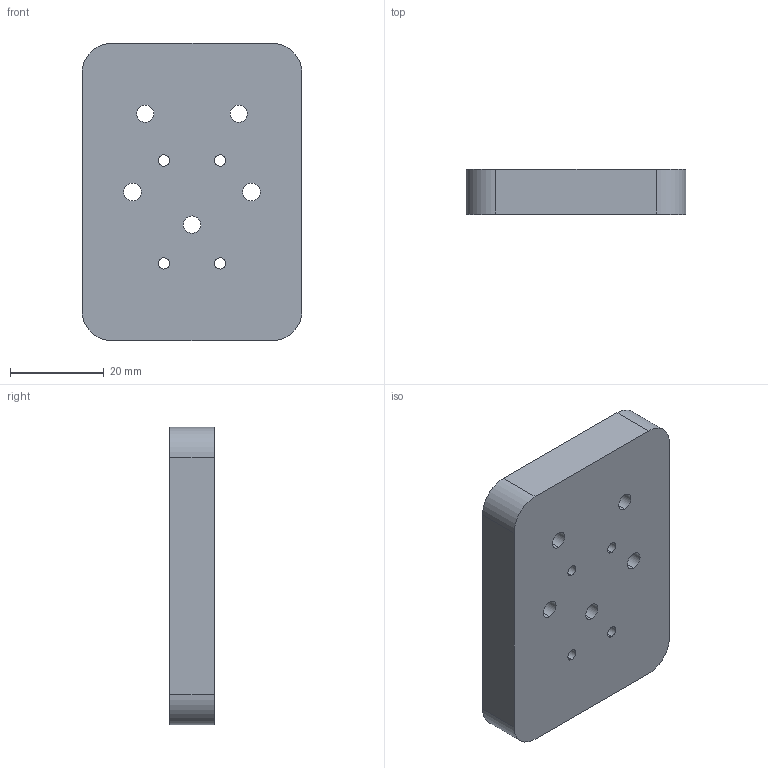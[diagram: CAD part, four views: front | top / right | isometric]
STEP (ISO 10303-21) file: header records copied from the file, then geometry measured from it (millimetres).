
FILE_DESCRIPTION (( 'STEP AP203' ), '1' );
FILE_NAME ('AFSB-535XS-B-ACA2500.STEP', '2018-08-16T13:03:03', ( 'admin' ), ( '' ), 'SwSTEP 2.0', 'SolidWorks 2018', '' );
FILE_SCHEMA (( 'CONFIG_CONTROL_DESIGN' ));
Length unit declared in the file: inch
Products named in the file (1): AFSB-535XS-B-ACA2500
Bounding box: 46.99 x 9.53 x 63.5 mm (x, y, z)
Volume: 26979.9 mm3; surface area: 8784.4 mm2
Topology: 1 solids, 1 shells, 49 faces, 120 edges, 80 vertices
Faces by surface type: cylinder 36, plane 13
Entity records: 1601 total; most frequent: DIRECTION 292, CARTESIAN_POINT 250, ORIENTED_EDGE 240, AXIS2_PLACEMENT_3D 122, EDGE_CURVE 120, VERTEX_POINT 80, EDGE_LOOP 74, CIRCLE 72
